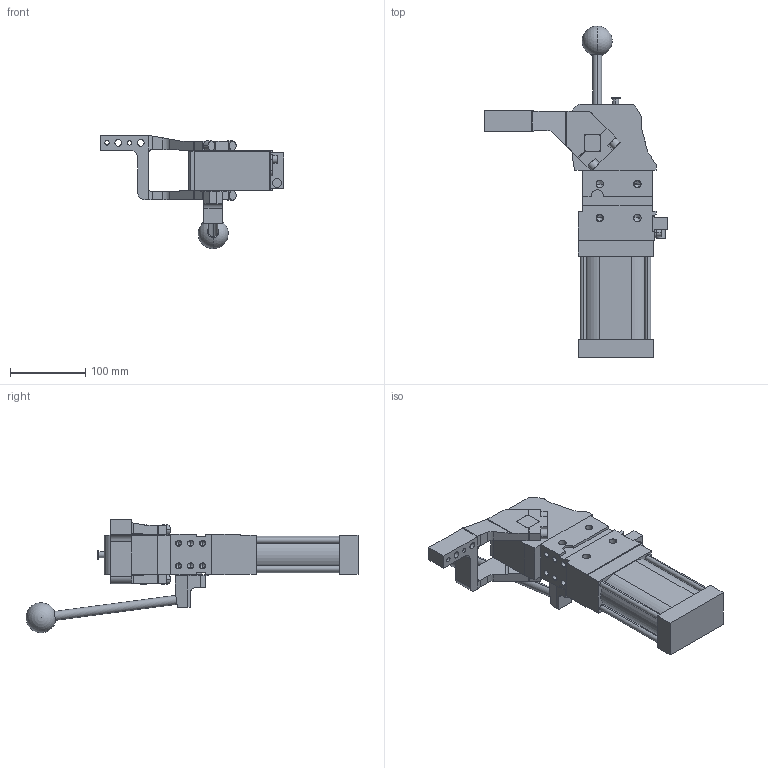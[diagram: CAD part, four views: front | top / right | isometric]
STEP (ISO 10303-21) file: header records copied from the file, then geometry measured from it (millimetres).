
FILE_DESCRIPTION (( 'STEP AP214' ), '1' );
FILE_NAME ('cplm63lbv1si1g_135.STEP', '2023-01-26T14:32:19', ( '' ), ( '' ), 'SwSTEP 2.0', 'SolidWorks 2022', '' );
FILE_SCHEMA (( 'AUTOMOTIVE_DESIGN' ));
Length unit declared in the file: millimetre
Products named in the file (5): meccanica_cplm_63; leva_sx_offset_15_cpl63; blocchetto_VEP_0; comando_manuale_cplm_63; cplm63lbv1si1g_135
Assembly tree (4 placements, depth 2):
  cplm63lbv1si1g_135
    meccanica_cplm_63
    blocchetto_VEP_0
    leva_sx_offset_15_cpl63
    comando_manuale_cplm_63
Bounding box: 244.5 x 442.23 x 151 mm (x, y, z)
Volume: 1866260.9 mm3; surface area: 206781.4 mm2
Topology: 4 solids, 4 shells, 430 faces, 1128 edges, 699 vertices
Faces by surface type: plane 217, cylinder 161, cone 50, sphere 2
Entity records: 14523 total; most frequent: CARTESIAN_POINT 2312, DIRECTION 2297, ORIENTED_EDGE 2154, EDGE_CURVE 1077, AXIS2_PLACEMENT_3D 795, LINE 707, VECTOR 707, VERTEX_POINT 696
